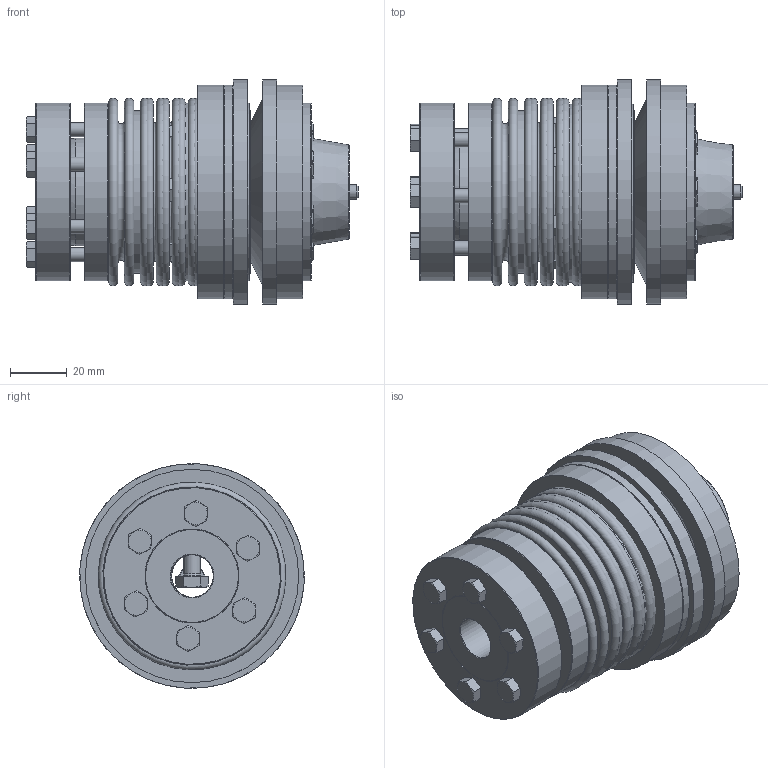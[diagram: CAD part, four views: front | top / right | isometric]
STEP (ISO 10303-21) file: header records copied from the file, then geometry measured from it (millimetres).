
FILE_DESCRIPTION( ( 'Unknown' ), '1' );
FILE_NAME( 'C:/Dokumente und Einstellungen/SKarpstein/Desktop/Korrigierte 3D Modelle/KBK-B-AI/KBK-BAI-60-100.stp', 'Unknown', ( 'Unknown' ), ( 'Unknown' ), 'XStep 1.0', 'Unknown', ' ' );
FILE_SCHEMA( ( 'automotive_design' ) );
Length unit declared in the file: millimetre
Products named in the file (12): Assem1; Assem2; DR60_Standard; Hex Screw GradeC_DIN_ISO 4018 - M5 x 25-NN; BA60_Standard; Stellring 60; Druckring 60; KBK L-I-60 Grundkörper; Konusbuchse 60; din_en_24017_m6x20; Flansch BK60; BL60_Standard_0
Bounding box: 116.7 x 79 x 79 mm (x, y, z)
Volume: 456454.2 mm3; surface area: 266119.9 mm2
Topology: 38 solids, 38 shells, 773 faces, 1595 edges, 1011 vertices
Faces by surface type: plane 341, cone 214, cylinder 159, torus 59
Full cylindrical faces by diameter (mm): 3.242 x6, 4 x6, 4.2 x18, 4.917 x18, 5 x13, 5.5 x18, 6 x7, 6.6 x12, 8.8 x7, 15 x7, 30.2 x2, 33 x2, 35 x4, 37.937 x3, 42 x2, 46 x4, 46.5 x2, 47 x2, 49.5 x2, 56.3 x4, 57.3 x4, 61.3 x2, 62.5 x6, 66 x2, 75 x4, 79 x2
Entity records: 6057 total; most frequent: CARTESIAN_POINT 1259, DIRECTION 1002, ORIENTED_EDGE 636, AXIS2_PLACEMENT_3D 477, EDGE_LOOP 442, EDGE_CURVE 318, FACE_OUTER_BOUND 311, VERTEX_POINT 270
